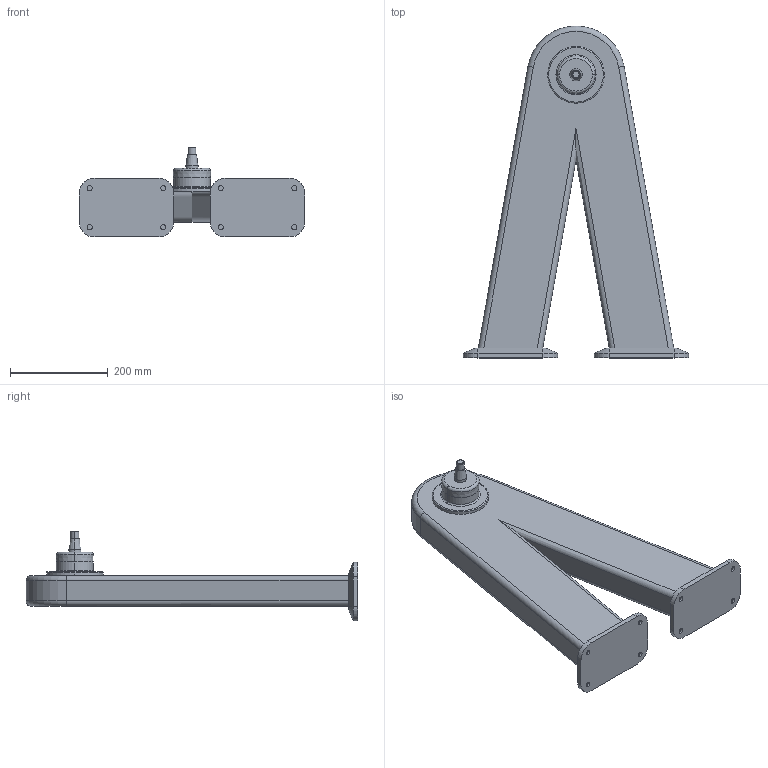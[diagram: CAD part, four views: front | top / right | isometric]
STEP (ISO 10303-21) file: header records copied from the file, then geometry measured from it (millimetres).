
FILE_DESCRIPTION (( 'STEP AP214' ), '1' );
FILE_NAME ('WP850_H580.STEP', '2014-09-08T13:00:51', ( '' ), ( '' ), 'SwSTEP 2.0', 'SolidWorks 2014', '' );
FILE_SCHEMA (( 'AUTOMOTIVE_DESIGN' ));
Length unit declared in the file: millimetre
Products named in the file (1): WP850_H580
Bounding box: 461.57 x 680 x 183.98 mm (x, y, z)
Volume: 10896872.3 mm3; surface area: 538377.9 mm2
Topology: 1 solids, 1 shells, 101 faces, 221 edges, 136 vertices
Faces by surface type: cylinder 41, plane 38, cone 14, torus 8
Entity records: 2795 total; most frequent: DIRECTION 513, CARTESIAN_POINT 489, ORIENTED_EDGE 442, EDGE_CURVE 221, AXIS2_PLACEMENT_3D 200, VERTEX_POINT 136, EDGE_LOOP 115, VECTOR 113
